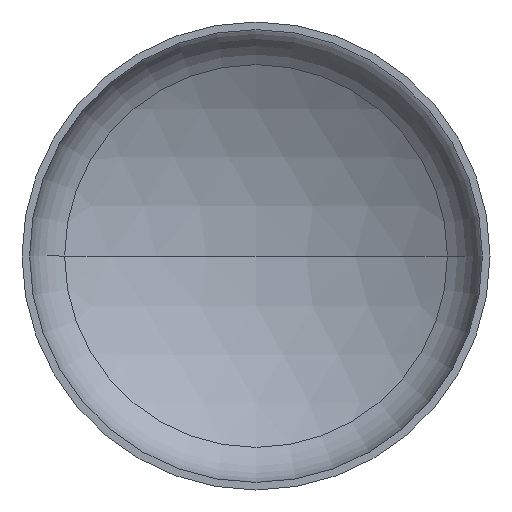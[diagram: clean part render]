
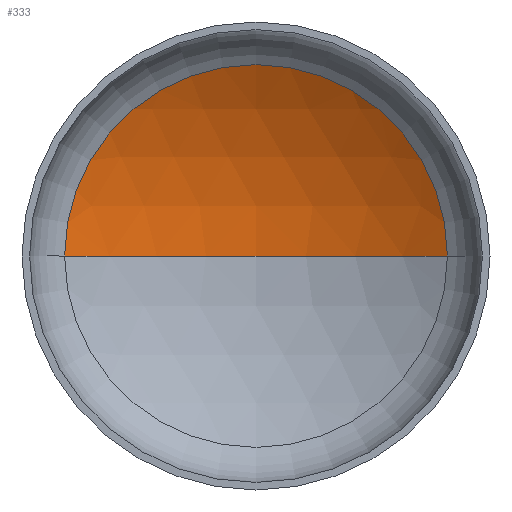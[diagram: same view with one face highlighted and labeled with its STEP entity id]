
A CAD part, front view. The second image highlights one B-rep face of the part: STEP entity #333.
In plain terms, the highlighted spherical face has radius 2560 mm.
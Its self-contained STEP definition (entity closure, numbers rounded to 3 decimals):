
#11 = AXIS2_PLACEMENT_3D ( 'NONE', #387, #307, #393 ) ;
#33 = ORIENTED_EDGE ( 'NONE', *, *, #86, .T. ) ;
#38 = AXIS2_PLACEMENT_3D ( 'NONE', #261, #54, #238 ) ;
#39 = AXIS2_PLACEMENT_3D ( 'NONE', #299, #207, #262 ) ;
#41 = AXIS2_PLACEMENT_3D ( 'NONE', #363, #286, #259 ) ;
#54 = DIRECTION ( 'NONE',  ( 0., 0., 1. ) ) ;
#64 = VERTEX_POINT ( 'NONE', #177 ) ;
#78 = ORIENTED_EDGE ( 'NONE', *, *, #85, .T. ) ;
#85 = EDGE_CURVE ( 'NONE', #115, #191, #410, .T. ) ;
#86 = EDGE_CURVE ( 'NONE', #64, #115, #359, .T. ) ;
#87 = EDGE_CURVE ( 'NONE', #64, #191, #289, .T. ) ;
#109 = FACE_OUTER_BOUND ( 'NONE', #142, .T. ) ;
#115 = VERTEX_POINT ( 'NONE', #285 ) ;
#136 = ORIENTED_EDGE ( 'NONE', *, *, #87, .F. ) ;
#142 = EDGE_LOOP ( 'NONE', ( #136, #33, #78 ) ) ;
#177 = CARTESIAN_POINT ( 'NONE',  ( 0., 900.805, 0. ) ) ;
#191 = VERTEX_POINT ( 'NONE', #251 ) ;
#207 = DIRECTION ( 'NONE',  ( 0., 0., -1. ) ) ;
#238 = DIRECTION ( 'NONE',  ( 1., 0., 0. ) ) ;
#251 = CARTESIAN_POINT ( 'NONE',  ( -1308.444, 541.162, 0. ) ) ;
#259 = DIRECTION ( 'NONE',  ( 1., 0., 0. ) ) ;
#261 = CARTESIAN_POINT ( 'NONE',  ( 0., -1659.195, 0. ) ) ;
#262 = DIRECTION ( 'NONE',  ( -1., 0., 0. ) ) ;
#285 = CARTESIAN_POINT ( 'NONE',  ( 1308.444, 541.162, 0. ) ) ;
#286 = DIRECTION ( 'NONE',  ( 0., -1., 0. ) ) ;
#289 = CIRCLE ( 'NONE', #38, 2560. ) ;
#299 = CARTESIAN_POINT ( 'NONE',  ( 0., -1659.195, 0. ) ) ;
#307 = DIRECTION ( 'NONE',  ( 0., 0., -1. ) ) ;
#327 = SPHERICAL_SURFACE ( 'NONE', #11, 2560. ) ;
#333 = ADVANCED_FACE ( 'NONE', ( #109 ), #327, .F. ) ;
#359 = CIRCLE ( 'NONE', #39, 2560. ) ;
#363 = CARTESIAN_POINT ( 'NONE',  ( 0., 541.162, 0. ) ) ;
#387 = CARTESIAN_POINT ( 'NONE',  ( 0., -1659.195, 0. ) ) ;
#393 = DIRECTION ( 'NONE',  ( -1., 0., 0. ) ) ;
#410 = CIRCLE ( 'NONE', #41, 1308.444 ) ;
